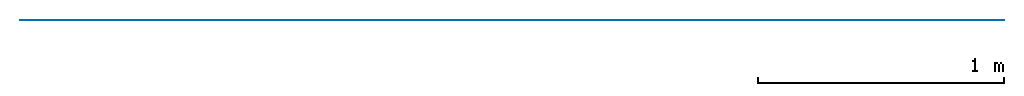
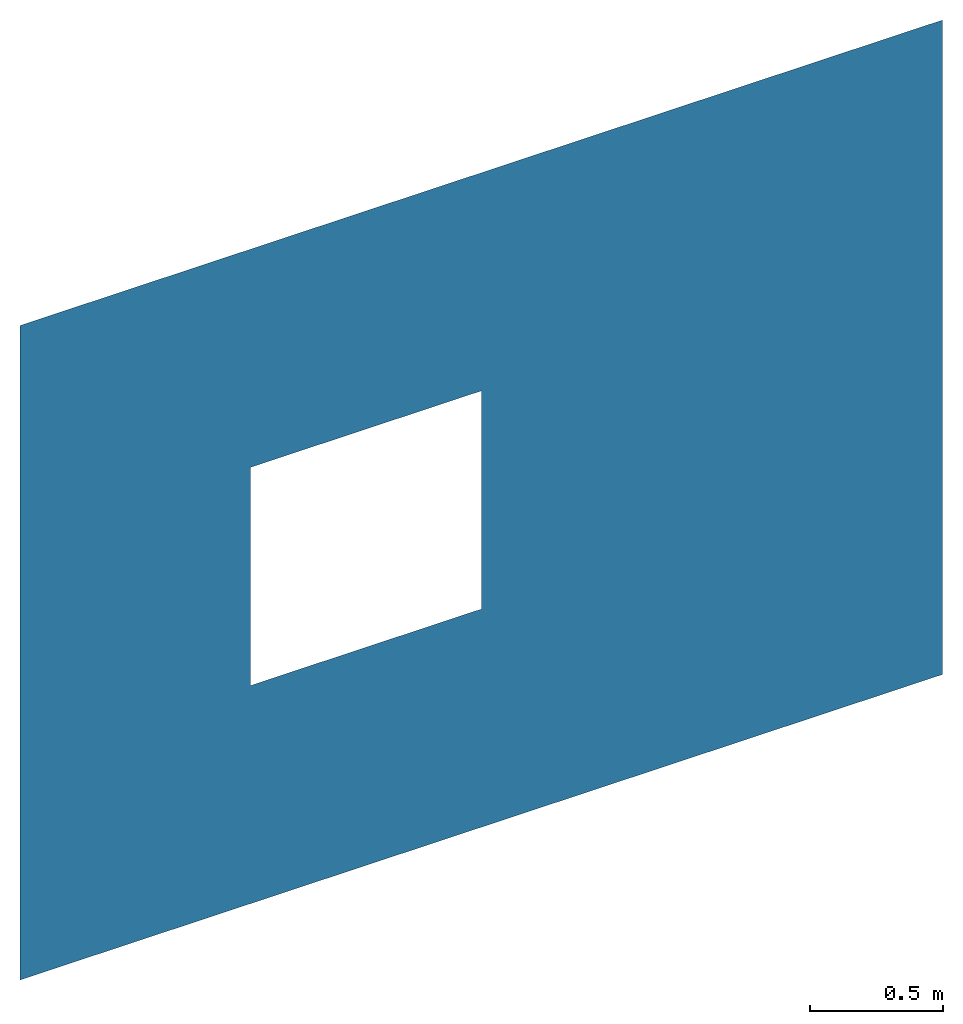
# One storey: 1 wall.
"""IFC4 building model written with IfcOpenShell, lengths in metres."""

from ifc_helpers import new_model, si_unit, origin, place, context, project, spatial, open_shell, surface_model, element, save


model = new_model("IFC4")

# Units and contexts
model_context = context("Model", 3, precision=1e-05, world=origin())
ifc_project = project(units=[si_unit("LENGTHUNIT", "METRE"), si_unit("AREAUNIT", "SQUARE_METRE"), si_unit("VOLUMEUNIT", "CUBIC_METRE")], contexts=[model_context])

# Site, building, storey
placement = place(None, origin())
site = spatial("IfcSite", under=ifc_project, at=placement, Name="Default Site", CompositionType="ELEMENT")
building = spatial("IfcBuilding", under=site, at=placement, Name="Building 1", CompositionType="ELEMENT")
storey = spatial("IfcBuildingStorey", under=building, at=placement, Name="Storey 1", CompositionType="ELEMENT", Elevation=0.0)

# Wall
element("IfcWall", 1, at=placement, inside=storey, Name="Perforado", context=model_context, shape_type="SurfaceModel", body=[
    surface_model("IfcShellBasedSurfaceModel", [(0.0, 0.0, 0.0), (4.0, 0.0, 0.0), (4.0, 0.0, 3.0), (0.0, 0.0, 3.0), (1.0, 0.0, 1.0), (1.0, 0.0, 2.0), (2.0, 0.0, 2.0), (2.0, 0.0, 1.0)], [open_shell([[[0, 1, 2, 3], [4, 5, 6, 7]]])]),
])

save(model, "model.ifc")
